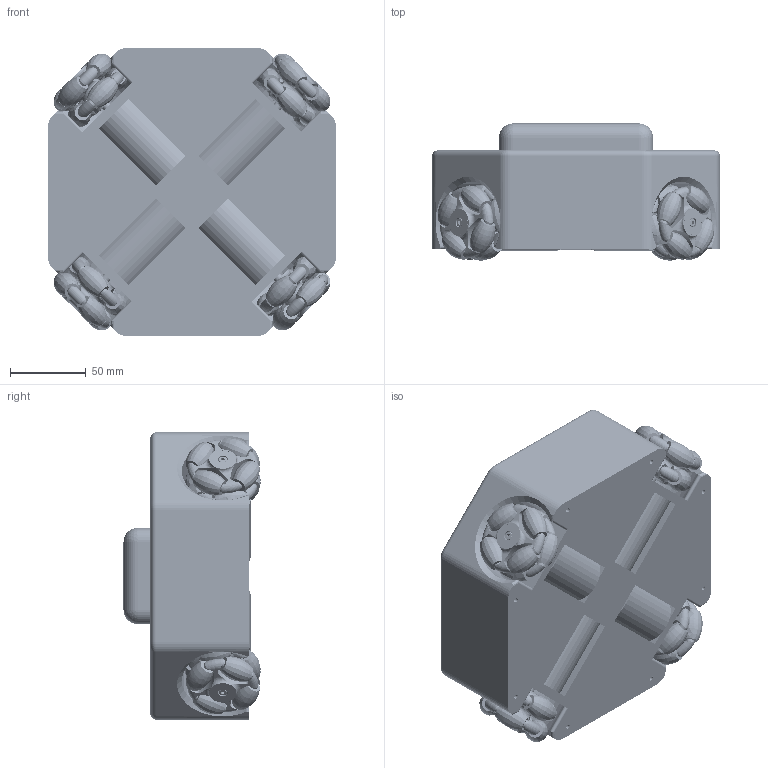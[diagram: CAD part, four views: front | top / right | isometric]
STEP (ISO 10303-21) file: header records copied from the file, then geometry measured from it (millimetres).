
FILE_DESCRIPTION(/* description */ (''),/* implementation_level */ '2;1');
FILE_NAME(/* name */ 'OmniBot_Assembly.stp',/* time_stamp */ '2023-08-03T13:37:19-04:00',/* author */ ('aaedm'),/* organization */ (''),/* preprocessor_version */ 'ST-DEVELOPER v19.2',/* originating_system */ 'Autodesk Inventor 2023',/* authorisation */ '');
FILE_SCHEMA (('AUTOMOTIVE_DESIGN { 1 0 10303 214 3 1 1 }'));
Length unit declared in the file: inch
Products named in the file (15): OmniBot_Assembly; Chassis; 37mm_DC_Motor; OmniBot_Assembly_1; Wheel; Wheel_Hub_Cap; Wheel_Hub_Body; m3 x 6mm insert; M3_8mm_Screw; Component3; half proto board; M3_6mm_Standoff; Bottom_Cover; m3 x 6mm insert_1; Cover
Assembly tree (57 placements, depth 3):
  OmniBot_Assembly
    Chassis
    37mm_DC_Motor  x4
    OmniBot_Assembly_1  x4
      Wheel
      Wheel_Hub_Cap
      Wheel_Hub_Body
      m3 x 6mm insert
      M3_8mm_Screw
    Component3  x4
    half proto board
    M3_6mm_Standoff  x2
    Bottom_Cover
    m3 x 6mm insert_1  x34
    Cover
Bounding box: 189.5 x 90.34 x 189.5 mm (x, y, z)
Volume: 1069874.1 mm3; surface area: 457238.4 mm2
Topology: 132 solids, 132 shells, 2365 faces, 5578 edges, 3646 vertices
Faces by surface type: cylinder 1138, plane 1033, torus 96, cone 50, bspline 40, sphere 8
Full cylindrical faces by diameter (mm): 1.7 x420, 3 x134, 3.9 x38, 4.8 x38, 4.9 x76, 5.4 x4, 6 x68, 6.35 x32, 10 x4, 12 x20, 16 x12, 37 x8
Entity records: 44912 total; most frequent: CARTESIAN_POINT 8652, DIRECTION 7685, ORIENTED_EDGE 6746, EDGE_CURVE 3373, AXIS2_PLACEMENT_3D 3079, EDGE_LOOP 2393, VERTEX_POINT 2210, CIRCLE 1710
